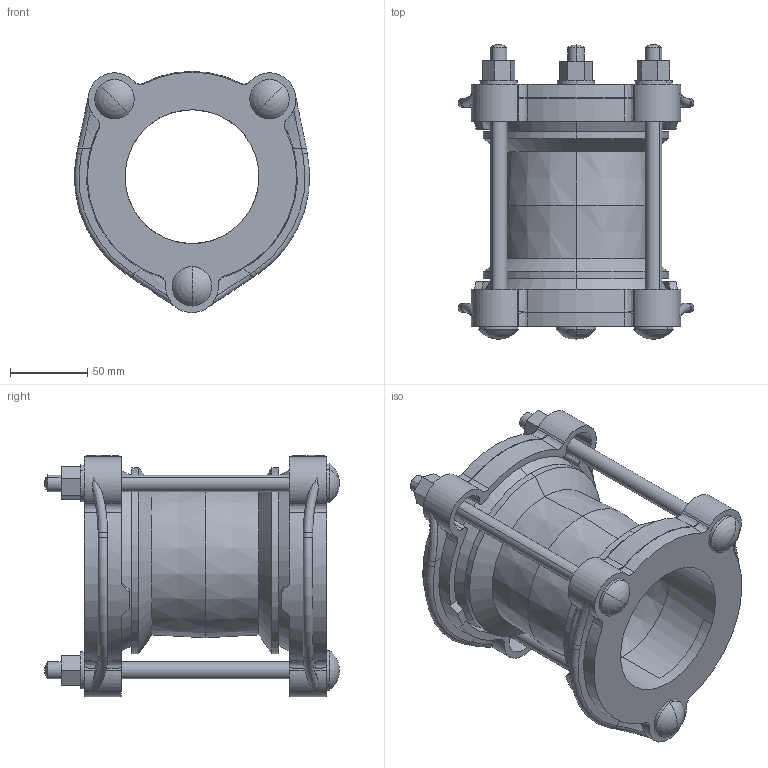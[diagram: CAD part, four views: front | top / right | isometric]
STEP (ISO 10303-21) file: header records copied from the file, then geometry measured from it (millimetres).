
FILE_DESCRIPTION((''),'2;1');
FILE_NAME('BIM_12393_ALT_GEN_44','2018-09-18T',('MReader'),(''),'CREO PARAMETRIC BY PTC INC, 2016130','CREO PARAMETRIC BY PTC INC, 2016130','');
FILE_SCHEMA(('CONFIG_CONTROL_DESIGN'));
Length unit declared in the file: millimetre
Products named in the file (1): BIM_12393_ALT_GEN_44
Bounding box: 151.93 x 190.33 x 155.77 mm (x, y, z)
Volume: 764582.7 mm3; surface area: 209610.6 mm2
Topology: 1 solids, 1 shells, 338 faces, 904 edges, 570 vertices
Faces by surface type: plane 108, cone 72, cylinder 68, bspline 48, torus 30, sphere 12
Entity records: 12632 total; most frequent: CARTESIAN_POINT 4540, ORIENTED_EDGE 1784, DIRECTION 1606, EDGE_CURVE 892, AXIS2_PLACEMENT_3D 652, VERTEX_POINT 570, CIRCLE 362, EDGE_LOOP 360
